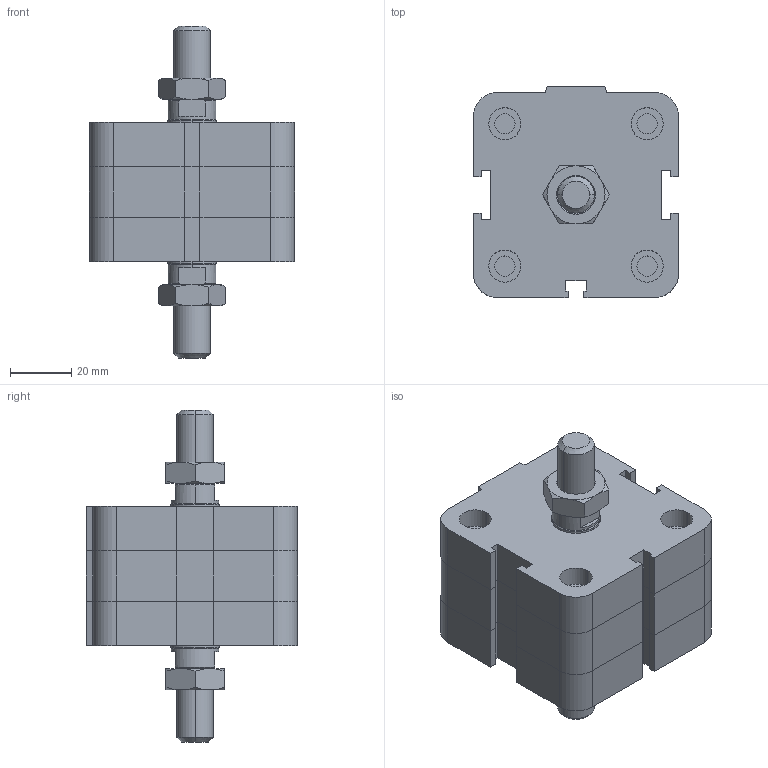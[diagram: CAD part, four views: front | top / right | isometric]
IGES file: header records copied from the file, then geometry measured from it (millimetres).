
Global section: file name: No Iges File Name specified; native system: Autodesk Inventor 2009; preprocessor: AutoDesk Inventor Iges Exporter R2009; author: maffial1; date: 20090420.200717; units: millimetre
Bounding box: 67 x 69 x 108.5 mm (x, y, z)
Volume: 196900.6 mm3; surface area: 36224.2 mm2
Topology: 4 solids, 4 shells, 260 faces, 574 edges, 342 vertices
Faces by surface type: plane 129, bspline 51, cone 38, cylinder 22, revolution 20
